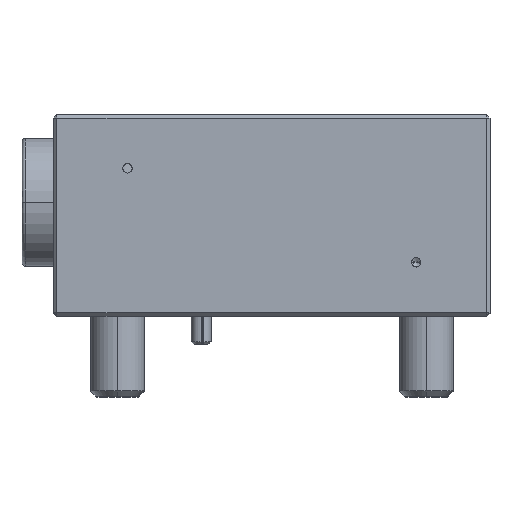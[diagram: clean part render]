
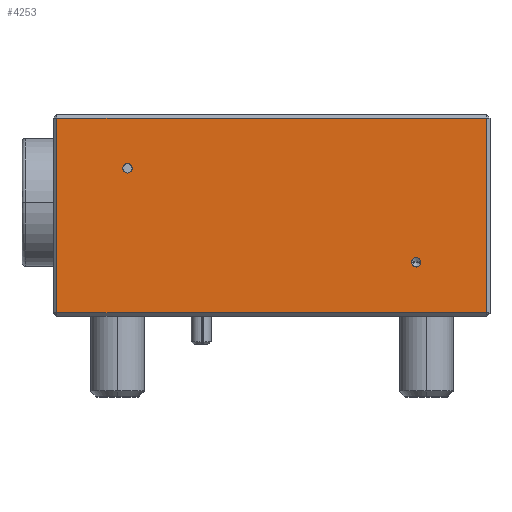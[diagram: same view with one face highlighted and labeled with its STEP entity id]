
A CAD part, top view. The second image highlights one B-rep face of the part: STEP entity #4253.
In plain terms, the highlighted planar face has unit normal (0, 0, 1).
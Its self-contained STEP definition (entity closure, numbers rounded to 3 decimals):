
#254 = CARTESIAN_POINT ( 'NONE',  ( 64.5, -14.5, 32.5 ) ) ;
#1117 = EDGE_CURVE ( 'NONE', #7591, #3401, #2582, .T. ) ;
#1120 = EDGE_CURVE ( 'NONE', #3401, #7061, #4709, .T. ) ;
#1129 = EDGE_CURVE ( 'NONE', #7061, #6966, #6251, .T. ) ;
#1133 = EDGE_CURVE ( 'NONE', #6966, #7591, #3103, .T. ) ;
#1146 = EDGE_CURVE ( 'NONE', #7003, #7269, #8668, .T. ) ;
#1149 = EDGE_CURVE ( 'NONE', #6162, #6071, #7502, .T. ) ;
#1676 = DIRECTION ( 'NONE',  ( 1., 0., 0. ) ) ;
#1688 = ORIENTED_EDGE ( 'NONE', *, *, #1129, .T. ) ;
#1946 = VECTOR ( 'NONE', #3839, 1000. ) ;
#1975 = EDGE_CURVE ( 'NONE', #6071, #6162, #4823, .T. ) ;
#2508 = ORIENTED_EDGE ( 'NONE', *, *, #1117, .T. ) ;
#2582 = LINE ( 'NONE', #8842, #6154 ) ;
#2608 = EDGE_LOOP ( 'NONE', ( #6422, #9444 ) ) ;
#2757 = AXIS2_PLACEMENT_3D ( 'NONE', #4482, #4104, #4286 ) ;
#2839 = AXIS2_PLACEMENT_3D ( 'NONE', #4820, #4793, #4786 ) ;
#2865 = EDGE_LOOP ( 'NONE', ( #6010, #6803 ) ) ;
#3103 = LINE ( 'NONE', #5985, #1946 ) ;
#3214 = VECTOR ( 'NONE', #6053, 1000. ) ;
#3293 = DIRECTION ( 'NONE',  ( 1., 0., 0. ) ) ;
#3334 = DIRECTION ( 'NONE',  ( 0., 0., 1. ) ) ;
#3353 = CARTESIAN_POINT ( 'NONE',  ( 54., -7., 32.5 ) ) ;
#3401 = VERTEX_POINT ( 'NONE', #254 ) ;
#3487 = DIRECTION ( 'NONE',  ( 1., 0., 0. ) ) ;
#3497 = DIRECTION ( 'NONE',  ( 0., 0., 1. ) ) ;
#3521 = CARTESIAN_POINT ( 'NONE',  ( 11., 7., 32.5 ) ) ;
#3681 = ORIENTED_EDGE ( 'NONE', *, *, #1120, .T. ) ;
#3808 = CARTESIAN_POINT ( 'NONE',  ( 0.5, -14.5, 32.5 ) ) ;
#3839 = DIRECTION ( 'NONE',  ( 0., -1., 0. ) ) ;
#4104 = DIRECTION ( 'NONE',  ( 0., 0., -1. ) ) ;
#4203 = EDGE_LOOP ( 'NONE', ( #2508, #3681, #1688, #9857 ) ) ;
#4253 = ADVANCED_FACE ( 'NONE', ( #4345, #4328, #4263 ), #4976, .F. ) ;
#4263 = FACE_BOUND ( 'NONE', #2608, .T. ) ;
#4286 = DIRECTION ( 'NONE',  ( -1., 0., 0. ) ) ;
#4328 = FACE_BOUND ( 'NONE', #2865, .T. ) ;
#4345 = FACE_OUTER_BOUND ( 'NONE', #4203, .T. ) ;
#4482 = CARTESIAN_POINT ( 'NONE',  ( 65., -15., 32.5 ) ) ;
#4709 = LINE ( 'NONE', #9672, #4939 ) ;
#4786 = DIRECTION ( 'NONE',  ( 1., 0., 0. ) ) ;
#4793 = DIRECTION ( 'NONE',  ( 0., 0., 1. ) ) ;
#4820 = CARTESIAN_POINT ( 'NONE',  ( 11., 7., 32.5 ) ) ;
#4823 = CIRCLE ( 'NONE', #7489, 0.7 ) ;
#4939 = VECTOR ( 'NONE', #6011, 1000. ) ;
#4976 = PLANE ( 'NONE',  #2757 ) ;
#5985 = CARTESIAN_POINT ( 'NONE',  ( 0.5, -15., 32.5 ) ) ;
#6010 = ORIENTED_EDGE ( 'NONE', *, *, #1146, .F. ) ;
#6011 = DIRECTION ( 'NONE',  ( 0., 1., 0. ) ) ;
#6053 = DIRECTION ( 'NONE',  ( -1., 0., 0. ) ) ;
#6071 = VERTEX_POINT ( 'NONE', #8340 ) ;
#6154 = VECTOR ( 'NONE', #8102, 1000. ) ;
#6162 = VERTEX_POINT ( 'NONE', #6711 ) ;
#6251 = LINE ( 'NONE', #9595, #3214 ) ;
#6422 = ORIENTED_EDGE ( 'NONE', *, *, #1149, .F. ) ;
#6604 = CARTESIAN_POINT ( 'NONE',  ( 10.3, 7., 32.5 ) ) ;
#6711 = CARTESIAN_POINT ( 'NONE',  ( 54.7, -7., 32.5 ) ) ;
#6803 = ORIENTED_EDGE ( 'NONE', *, *, #10344, .F. ) ;
#6966 = VERTEX_POINT ( 'NONE', #9746 ) ;
#7003 = VERTEX_POINT ( 'NONE', #9521 ) ;
#7061 = VERTEX_POINT ( 'NONE', #8915 ) ;
#7240 = CIRCLE ( 'NONE', #2839, 0.7 ) ;
#7269 = VERTEX_POINT ( 'NONE', #6604 ) ;
#7489 = AXIS2_PLACEMENT_3D ( 'NONE', #7601, #7588, #1676 ) ;
#7502 = CIRCLE ( 'NONE', #7810, 0.7 ) ;
#7588 = DIRECTION ( 'NONE',  ( 0., 0., 1. ) ) ;
#7591 = VERTEX_POINT ( 'NONE', #3808 ) ;
#7601 = CARTESIAN_POINT ( 'NONE',  ( 54., -7., 32.5 ) ) ;
#7810 = AXIS2_PLACEMENT_3D ( 'NONE', #3353, #3334, #3293 ) ;
#7821 = AXIS2_PLACEMENT_3D ( 'NONE', #3521, #3497, #3487 ) ;
#8102 = DIRECTION ( 'NONE',  ( 1., 0., 0. ) ) ;
#8340 = CARTESIAN_POINT ( 'NONE',  ( 53.3, -7., 32.5 ) ) ;
#8668 = CIRCLE ( 'NONE', #7821, 0.7 ) ;
#8842 = CARTESIAN_POINT ( 'NONE',  ( 65., -14.5, 32.5 ) ) ;
#8915 = CARTESIAN_POINT ( 'NONE',  ( 64.5, 14.5, 32.5 ) ) ;
#9444 = ORIENTED_EDGE ( 'NONE', *, *, #1975, .F. ) ;
#9521 = CARTESIAN_POINT ( 'NONE',  ( 11.7, 7., 32.5 ) ) ;
#9595 = CARTESIAN_POINT ( 'NONE',  ( 65., 14.5, 32.5 ) ) ;
#9672 = CARTESIAN_POINT ( 'NONE',  ( 64.5, -15., 32.5 ) ) ;
#9746 = CARTESIAN_POINT ( 'NONE',  ( 0.5, 14.5, 32.5 ) ) ;
#9857 = ORIENTED_EDGE ( 'NONE', *, *, #1133, .T. ) ;
#10344 = EDGE_CURVE ( 'NONE', #7269, #7003, #7240, .T. ) ;
